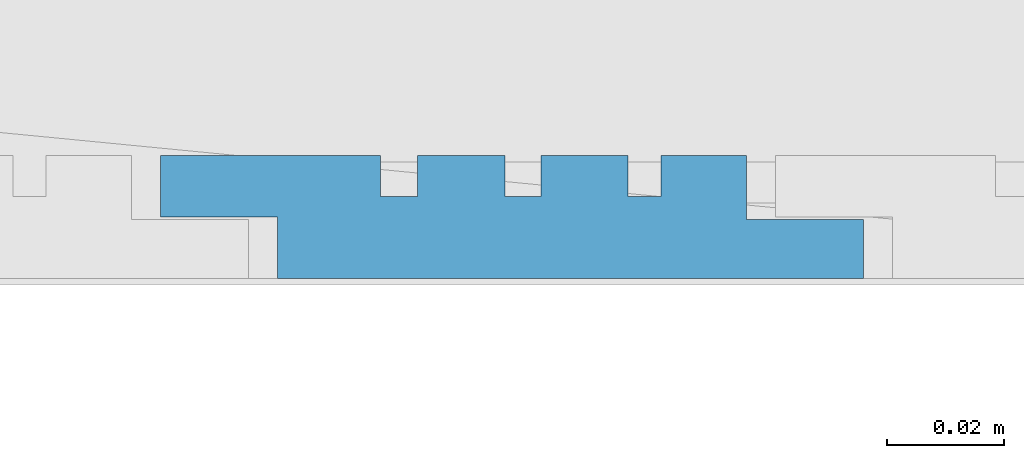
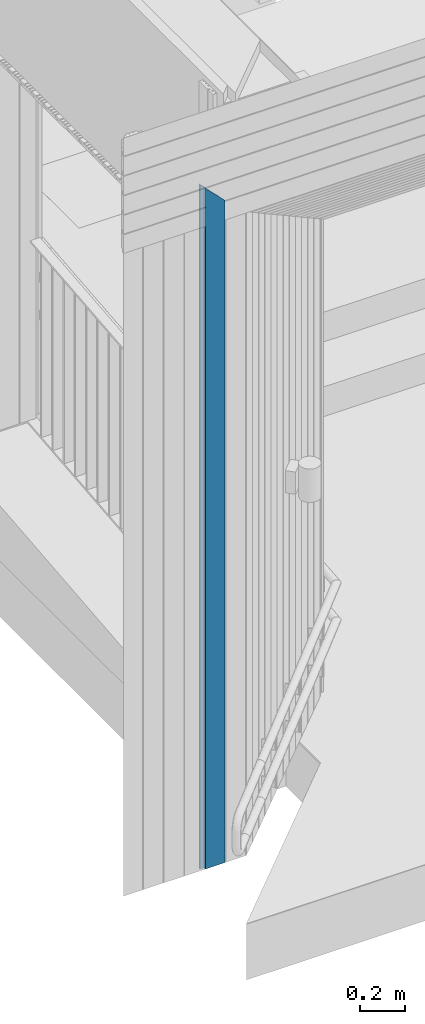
# One storey, part 96 of 418: 1 building element part, 1 element without a shape of its own.
"""IFC2X3 building model written with IfcOpenShell, lengths in millimetres."""

from ifc_helpers import new_model, entity, si_unit, converted_unit, derived_unit, money_unit, direction, frame, origin_with_axes, place, context, subcontext, project, spatial, polyline, outline, extrude, boolean, faceted_brep, material, type_object, element, aggregate, save


model = new_model("IFC2X3")

# Units and contexts
model_context = context("Model", 3, precision=0.01, world=origin_with_axes(), true_north=direction((0.0, 1.0)))
body_context = subcontext(model_context, "Body", "Model", "MODEL_VIEW")
ifc_project = project(units=[si_unit("LENGTHUNIT", "METRE", prefix="MILLI"), si_unit("AREAUNIT", "SQUARE_METRE"), si_unit("VOLUMEUNIT", "CUBIC_METRE"), converted_unit("PLANEANGLEUNIT", "DEGREE", entity("IfcPlaneAngleMeasure", 0.0174532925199), si_unit("PLANEANGLEUNIT", "RADIAN"), dimensions=[0, 0, 0, 0, 0, 0, 0]), si_unit("SOLIDANGLEUNIT", "STERADIAN"), money_unit("EUR"), converted_unit("TIMEUNIT", "Year", entity("IfcTimeMeasure", 31556926.0), si_unit("TIMEUNIT", "SECOND"), dimensions=[0, 0, 1, 0, 0, 0, 0]), si_unit("MASSUNIT", "GRAM", prefix="KILO"), si_unit("THERMODYNAMICTEMPERATUREUNIT", "DEGREE_CELSIUS"), si_unit("LUMINOUSINTENSITYUNIT", "LUMEN"), si_unit("ENERGYUNIT", "JOULE", prefix="MEGA"), derived_unit("THERMALCONDUCTANCEUNIT", [(si_unit("POWERUNIT", "WATT"), 1), (si_unit("LENGTHUNIT", "METRE"), -1), (si_unit("THERMODYNAMICTEMPERATUREUNIT", "KELVIN"), -1)]), derived_unit("SPECIFICHEATCAPACITYUNIT", [(si_unit("ENERGYUNIT", "JOULE"), 1), (si_unit("MASSUNIT", "GRAM", prefix="KILO"), -1), (si_unit("THERMODYNAMICTEMPERATUREUNIT", "KELVIN"), -1)]), derived_unit("MASSDENSITYUNIT", [(si_unit("MASSUNIT", "GRAM", prefix="KILO"), 1), (si_unit("VOLUMEUNIT", "CUBIC_METRE"), -1)])], contexts=[model_context])

# Site, building, storey
site_placement = place(None, origin_with_axes())
site = spatial("IfcSite", under=ifc_project, at=site_placement, Name="Paldiski mnt 245/1, Tallinn, Harjumaa", CompositionType="COMPLEX")
building_placement = place(site_placement, origin_with_axes())
building = spatial("IfcBuilding", under=site, at=building_placement, Name="RKAS Hoone üldnimetus (kasutust iseloomustav) -> IFC Project Manager -> SOLIBRI", CompositionType="ELEMENT")
storey_placement = place(building_placement, origin_with_axes())
storey = spatial("IfcBuildingStorey", under=building, at=storey_placement, Name="Esimene korrus", CompositionType="ELEMENT", Elevation=0.0)

# Proxy, building element part
building_element_proxy_type = type_object("IfcBuildingElementProxyType", Name="Laudis esiprofiil_01 21 x 622", PredefinedType="NOTDEFINED")
proxy_placement = place(storey_placement, frame((-45641.4622152, -18705.5141429, 0.0), z_axis=(0.0, 0.0, 1.0), x_axis=(0.0, 1.0, 0.0)))
proxy = element("IfcBuildingElementProxy", 1, at=proxy_placement, inside=storey, type_object=building_element_proxy_type, Name="Varikatus")
ifc_material = material(Name="Laudis 5072 Honka 45 horisontaalne raastas")
building_element_part_placement = place(proxy_placement, origin_with_axes())
building_element_part = element("IfcBuildingElementPart", 2, at=building_element_part_placement, material=ifc_material, Name="Laudis 5072 Honka 45 horisontaalne raastas", context=body_context, shape_type="CSG", body=[
    boolean("DIFFERENCE", boolean("DIFFERENCE", boolean("DIFFERENCE", boolean("DIFFERENCE", boolean("DIFFERENCE", boolean("DIFFERENCE", extrude(outline(polyline([(3.20348192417e-08, -415.971430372), (-10.5000010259, -415.971430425), (-10.5000005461, -395.971429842), (-20.9999998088, -395.971430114), (-21.0000010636, -433.497524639), (-14.0000005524, -433.497525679), (-14.0000003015, -439.860022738), (-20.99999981, -439.860022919), (-20.9999998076, -454.79914009), (-14.0000002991, -454.799139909), (-14.0000007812, -460.926080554), (-21.0000002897, -460.926080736), (-21.0000013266, -475.754573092), (-14.0000008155, -475.754574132), (-14.0000015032, -481.395242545), (-21.0000010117, -481.395242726), (-21.0000007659, -495.971429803), (-10.000001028, -495.971430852), (-10.0000002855, -515.971430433), (-7.63172636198e-07, -515.971430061), (3.20348192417e-08, -415.971430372)])), frame((0.0, 0.0, 0.0), z_axis=(0.0, 0.0, -1.0), x_axis=(-1.0, 0.0, 0.0)), (0.0, 0.0, -1.0), 4086.15997799), faceted_brep([(7.63172636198e-07, -515.971430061, 3569.02857112), (10.0000002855, -515.971430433, 3569.02857075), (10.0000002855, -515.971430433, 4086.15997799), (7.63172636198e-07, -515.971430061, 4086.15997799), (10.000001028, -495.971430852, 3589.02857033), (-3.20348192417e-08, -415.971430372, 3669.02857081), (10.5000010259, -415.971430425, 3669.02857076), (10.5000005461, -395.971429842, 3689.02857134), (20.9999998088, -395.971430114, 3689.02857107), (21.0000010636, -433.497524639, 3651.50247655), (14.0000005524, -433.497525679, 3651.50247551), (14.0000003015, -439.860022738, 3645.13997845), (20.99999981, -439.860022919, 3645.13997827), (20.9999998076, -454.79914009, 3630.20086109), (14.0000002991, -454.799139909, 3630.20086128), (14.0000007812, -460.926080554, 3624.07392063), (21.0000002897, -460.926080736, 3624.07392045), (21.0000013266, -475.754573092, 3609.24542809), (14.0000008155, -475.754574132, 3609.24542705), (14.0000015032, -481.395242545, 3603.60475864), (21.0000010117, -481.395242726, 3603.60475846), (21.0000007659, -495.971429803, 3589.02857138), (10.000001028, -495.971430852, 4086.15997799), (10.5000010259, -415.971430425, 4086.15997799), (-3.20348192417e-08, -415.971430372, 4086.15997799), (21.0000007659, -495.971429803, 4086.15997799), (21.0000010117, -481.395242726, 4086.15997799), (14.0000015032, -481.395242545, 4086.15997799), (14.0000008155, -475.754574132, 4086.15997799), (21.0000013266, -475.754573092, 4086.15997799), (21.0000002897, -460.926080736, 4086.15997799), (14.0000007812, -460.926080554, 4086.15997799), (14.0000002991, -454.799139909, 4086.15997799), (20.9999998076, -454.79914009, 4086.15997799), (20.99999981, -439.860022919, 4086.15997799), (14.0000003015, -439.860022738, 4086.15997799), (14.0000005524, -433.497525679, 4086.15997799), (21.0000010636, -433.497524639, 4086.15997799), (20.9999998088, -395.971430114, 4086.15997799), (10.5000005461, -395.971429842, 4086.15997799)], [[[0, 1, 2, 3]], [[4, 1, 0, 5, 6, 7, 8, 9, 10, 11, 12, 13, 14, 15, 16, 17, 18, 19, 20, 21]], [[1, 4, 22, 2]], [[23, 24, 3, 2, 22, 25, 26, 27, 28, 29, 30, 31, 32, 33, 34, 35, 36, 37, 38, 39]], [[5, 0, 3, 24]], [[6, 5, 24, 23]], [[7, 6, 23, 39]], [[8, 7, 39, 38]], [[9, 8, 38, 37]], [[10, 9, 37, 36]], [[11, 10, 36, 35]], [[12, 11, 35, 34]], [[13, 12, 34, 33]], [[14, 13, 33, 32]], [[15, 14, 32, 31]], [[16, 15, 31, 30]], [[17, 16, 30, 29]], [[18, 17, 29, 28]], [[19, 18, 28, 27]], [[20, 19, 27, 26]], [[21, 20, 26, 25]], [[4, 21, 25, 22]]])), faceted_brep([(7.63172636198e-07, -620.971430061, 3464.02857112), (10.0000002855, -620.971430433, 3464.02857075), (10.0000002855, -620.971430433, 4086.15997799), (7.63172636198e-07, -620.971430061, 4086.15997799), (10.000001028, -600.971430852, 3484.02857033), (-3.20348192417e-08, -520.971430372, 3564.02857081), (10.5000010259, -520.971430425, 3564.02857076), (10.5000005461, -500.971429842, 3584.02857134), (20.9999998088, -500.971430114, 3584.02857107), (21.0000010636, -538.497524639, 3546.50247655), (14.0000005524, -538.497525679, 3546.50247551), (14.0000003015, -544.860022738, 3540.13997845), (20.99999981, -544.860022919, 3540.13997827), (20.9999998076, -559.79914009, 3525.20086109), (14.0000002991, -559.799139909, 3525.20086128), (14.0000007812, -565.926080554, 3519.07392063), (21.0000002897, -565.926080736, 3519.07392045), (21.0000013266, -580.754573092, 3504.24542809), (14.0000008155, -580.754574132, 3504.24542705), (14.0000015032, -586.395242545, 3498.60475864), (21.0000010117, -586.395242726, 3498.60475846), (21.0000007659, -600.971429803, 3484.02857138), (10.000001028, -600.971430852, 4086.15997799), (10.5000010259, -520.971430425, 4086.15997799), (-3.20348192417e-08, -520.971430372, 4086.15997799), (21.0000007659, -600.971429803, 4086.15997799), (21.0000010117, -586.395242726, 4086.15997799), (14.0000015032, -586.395242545, 4086.15997799), (14.0000008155, -580.754574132, 4086.15997799), (21.0000013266, -580.754573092, 4086.15997799), (21.0000002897, -565.926080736, 4086.15997799), (14.0000007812, -565.926080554, 4086.15997799), (14.0000002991, -559.799139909, 4086.15997799), (20.9999998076, -559.79914009, 4086.15997799), (20.99999981, -544.860022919, 4086.15997799), (14.0000003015, -544.860022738, 4086.15997799), (14.0000005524, -538.497525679, 4086.15997799), (21.0000010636, -538.497524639, 4086.15997799), (20.9999998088, -500.971430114, 4086.15997799), (10.5000005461, -500.971429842, 4086.15997799)], [[[0, 1, 2, 3]], [[4, 1, 0, 5, 6, 7, 8, 9, 10, 11, 12, 13, 14, 15, 16, 17, 18, 19, 20, 21]], [[1, 4, 22, 2]], [[23, 24, 3, 2, 22, 25, 26, 27, 28, 29, 30, 31, 32, 33, 34, 35, 36, 37, 38, 39]], [[5, 0, 3, 24]], [[6, 5, 24, 23]], [[7, 6, 23, 39]], [[8, 7, 39, 38]], [[9, 8, 38, 37]], [[10, 9, 37, 36]], [[11, 10, 36, 35]], [[12, 11, 35, 34]], [[13, 12, 34, 33]], [[14, 13, 33, 32]], [[15, 14, 32, 31]], [[16, 15, 31, 30]], [[17, 16, 30, 29]], [[18, 17, 29, 28]], [[19, 18, 28, 27]], [[20, 19, 27, 26]], [[21, 20, 26, 25]], [[4, 21, 25, 22]]])), faceted_brep([(7.63172636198e-07, -305.971430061, 3779.02857112), (10.0000002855, -305.971430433, 3779.02857075), (10.0000002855, -305.971430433, 4086.15997799), (7.63172636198e-07, -305.971430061, 4086.15997799), (10.000001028, -285.971430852, 3799.02857033), (-3.20348192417e-08, -205.971430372, 3879.02857081), (10.5000010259, -205.971430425, 3879.02857076), (10.5000005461, -185.971429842, 3899.02857134), (20.9999998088, -185.971430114, 3899.02857107), (21.0000010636, -223.497524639, 3861.50247655), (14.0000005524, -223.497525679, 3861.50247551), (14.0000003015, -229.860022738, 3855.13997845), (20.99999981, -229.860022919, 3855.13997827), (20.9999998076, -244.79914009, 3840.20086109), (14.0000002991, -244.799139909, 3840.20086128), (14.0000007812, -250.926080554, 3834.07392063), (21.0000002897, -250.926080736, 3834.07392045), (21.0000013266, -265.754573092, 3819.24542809), (14.0000008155, -265.754574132, 3819.24542705), (14.0000015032, -271.395242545, 3813.60475864), (21.0000010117, -271.395242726, 3813.60475846), (21.0000007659, -285.971429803, 3799.02857138), (10.000001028, -285.971430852, 4086.15997799), (10.5000010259, -205.971430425, 4086.15997799), (-3.20348192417e-08, -205.971430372, 4086.15997799), (21.0000007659, -285.971429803, 4086.15997799), (21.0000010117, -271.395242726, 4086.15997799), (14.0000015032, -271.395242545, 4086.15997799), (14.0000008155, -265.754574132, 4086.15997799), (21.0000013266, -265.754573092, 4086.15997799), (21.0000002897, -250.926080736, 4086.15997799), (14.0000007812, -250.926080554, 4086.15997799), (14.0000002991, -244.799139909, 4086.15997799), (20.9999998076, -244.79914009, 4086.15997799), (20.99999981, -229.860022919, 4086.15997799), (14.0000003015, -229.860022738, 4086.15997799), (14.0000005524, -223.497525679, 4086.15997799), (21.0000010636, -223.497524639, 4086.15997799), (20.9999998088, -185.971430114, 4086.15997799), (10.5000005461, -185.971429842, 4086.15997799)], [[[0, 1, 2, 3]], [[4, 1, 0, 5, 6, 7, 8, 9, 10, 11, 12, 13, 14, 15, 16, 17, 18, 19, 20, 21]], [[1, 4, 22, 2]], [[23, 24, 3, 2, 22, 25, 26, 27, 28, 29, 30, 31, 32, 33, 34, 35, 36, 37, 38, 39]], [[5, 0, 3, 24]], [[6, 5, 24, 23]], [[7, 6, 23, 39]], [[8, 7, 39, 38]], [[9, 8, 38, 37]], [[10, 9, 37, 36]], [[11, 10, 36, 35]], [[12, 11, 35, 34]], [[13, 12, 34, 33]], [[14, 13, 33, 32]], [[15, 14, 32, 31]], [[16, 15, 31, 30]], [[17, 16, 30, 29]], [[18, 17, 29, 28]], [[19, 18, 28, 27]], [[20, 19, 27, 26]], [[21, 20, 26, 25]], [[4, 21, 25, 22]]])), faceted_brep([(7.63172636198e-07, -410.971430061, 3674.02857112), (10.0000002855, -410.971430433, 3674.02857075), (10.0000002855, -410.971430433, 4086.15997799), (7.63172636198e-07, -410.971430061, 4086.15997799), (10.000001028, -390.971430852, 3694.02857033), (-3.20348192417e-08, -310.971430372, 3774.02857081), (10.5000010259, -310.971430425, 3774.02857076), (10.5000005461, -290.971429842, 3794.02857134), (20.9999998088, -290.971430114, 3794.02857107), (21.0000010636, -328.497524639, 3756.50247655), (14.0000005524, -328.497525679, 3756.50247551), (14.0000003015, -334.860022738, 3750.13997845), (20.99999981, -334.860022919, 3750.13997827), (20.9999998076, -349.79914009, 3735.20086109), (14.0000002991, -349.799139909, 3735.20086128), (14.0000007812, -355.926080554, 3729.07392063), (21.0000002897, -355.926080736, 3729.07392045), (21.0000013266, -370.754573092, 3714.24542809), (14.0000008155, -370.754574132, 3714.24542705), (14.0000015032, -376.395242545, 3708.60475864), (21.0000010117, -376.395242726, 3708.60475846), (21.0000007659, -390.971429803, 3694.02857138), (10.000001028, -390.971430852, 4086.15997799), (10.5000010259, -310.971430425, 4086.15997799), (-3.20348192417e-08, -310.971430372, 4086.15997799), (21.0000007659, -390.971429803, 4086.15997799), (21.0000010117, -376.395242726, 4086.15997799), (14.0000015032, -376.395242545, 4086.15997799), (14.0000008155, -370.754574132, 4086.15997799), (21.0000013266, -370.754573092, 4086.15997799), (21.0000002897, -355.926080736, 4086.15997799), (14.0000007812, -355.926080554, 4086.15997799), (14.0000002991, -349.799139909, 4086.15997799), (20.9999998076, -349.79914009, 4086.15997799), (20.99999981, -334.860022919, 4086.15997799), (14.0000003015, -334.860022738, 4086.15997799), (14.0000005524, -328.497525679, 4086.15997799), (21.0000010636, -328.497524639, 4086.15997799), (20.9999998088, -290.971430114, 4086.15997799), (10.5000005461, -290.971429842, 4086.15997799)], [[[0, 1, 2, 3]], [[4, 1, 0, 5, 6, 7, 8, 9, 10, 11, 12, 13, 14, 15, 16, 17, 18, 19, 20, 21]], [[1, 4, 22, 2]], [[23, 24, 3, 2, 22, 25, 26, 27, 28, 29, 30, 31, 32, 33, 34, 35, 36, 37, 38, 39]], [[5, 0, 3, 24]], [[6, 5, 24, 23]], [[7, 6, 23, 39]], [[8, 7, 39, 38]], [[9, 8, 38, 37]], [[10, 9, 37, 36]], [[11, 10, 36, 35]], [[12, 11, 35, 34]], [[13, 12, 34, 33]], [[14, 13, 33, 32]], [[15, 14, 32, 31]], [[16, 15, 31, 30]], [[17, 16, 30, 29]], [[18, 17, 29, 28]], [[19, 18, 28, 27]], [[20, 19, 27, 26]], [[21, 20, 26, 25]], [[4, 21, 25, 22]]])), faceted_brep([(1.4387921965e-06, -95.9714304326, 3989.02857075), (10.0000000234, -95.9714304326, 3989.02857075), (10.0000000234, -95.9714304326, 4086.15997799), (1.4387921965e-06, -95.9714304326, 4086.15997799), (10.0000014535, -75.9714304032, 4009.02857078), (-8.28137558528e-09, 1.13997680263, 4086.13997799), (14.0000008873, -12.860024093, 4072.13997709), (14.0000008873, -19.8600231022, 4065.13997808), (20.9999998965, -19.8600231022, 4065.13997808), (20.9999998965, -34.7991407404, 4050.20086044), (14.0000008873, -34.7991393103, 4050.20086187), (14.0000008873, -40.9260801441, 4044.07392104), (20.9999998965, -40.9260801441, 4044.07392104), (21.0000013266, -55.7545733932, 4029.24542779), (14.0000008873, -55.7545748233, 4029.24542636), (14.0000008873, -61.3952431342, 4023.60475805), (21.0000013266, -61.3952431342, 4023.60475805), (21.0000013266, -75.9714304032, 4009.02857078), (10.0000014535, -75.9714304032, 4086.15997799), (14.0000008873, -55.7545748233, 4086.15997799), (21.0000013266, -55.7545733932, 4086.15997799), (20.9999998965, -40.9260801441, 4086.15997799), (14.0000008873, -40.9260801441, 4086.15997799), (14.0000008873, -34.7991393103, 4086.15997799), (20.9999998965, -34.7991407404, 4086.15997799), (20.9999998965, -19.8600231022, 4086.15997799), (14.0000008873, -19.8600231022, 4086.15997799), (14.0000008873, -12.860024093, 4086.15997799), (-8.28137558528e-09, 1.13997680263, 4086.15997799), (21.0000013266, -75.9714304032, 4086.15997799), (21.0000013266, -61.3952431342, 4086.15997799), (14.0000008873, -61.3952431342, 4086.15997799)], [[[0, 1, 2, 3]], [[4, 1, 0, 5, 6, 7, 8, 9, 10, 11, 12, 13, 14, 15, 16, 17]], [[1, 4, 18, 2]], [[19, 20, 21, 22, 23, 24, 25, 26, 27, 28, 3, 2, 18, 29, 30, 31]], [[5, 0, 3, 28]], [[6, 5, 28, 27]], [[7, 6, 27, 26]], [[8, 7, 26, 25]], [[9, 8, 25, 24]], [[10, 9, 24, 23]], [[11, 10, 23, 22]], [[12, 11, 22, 21]], [[13, 12, 21, 20]], [[14, 13, 20, 19]], [[15, 14, 19, 31]], [[16, 15, 31, 30]], [[17, 16, 30, 29]], [[4, 17, 29, 18]]])), faceted_brep([(7.63172636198e-07, -200.971430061, 3884.02857112), (10.0000002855, -200.971430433, 3884.02857075), (10.0000002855, -200.971430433, 4086.15997799), (7.63172636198e-07, -200.971430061, 4086.15997799), (10.000001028, -180.971430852, 3904.02857033), (-3.20348192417e-08, -100.971430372, 3984.02857081), (10.5000010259, -100.971430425, 3984.02857076), (10.5000005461, -80.9714298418, 4004.02857134), (20.9999998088, -80.9714301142, 4004.02857107), (21.0000010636, -118.497524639, 3966.50247655), (14.0000005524, -118.497525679, 3966.50247551), (14.0000003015, -124.860022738, 3960.13997845), (20.99999981, -124.860022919, 3960.13997827), (20.9999998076, -139.79914009, 3945.20086109), (14.0000002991, -139.799139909, 3945.20086128), (14.0000007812, -145.926080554, 3939.07392063), (21.0000002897, -145.926080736, 3939.07392045), (21.0000013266, -160.754573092, 3924.24542809), (14.0000008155, -160.754574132, 3924.24542705), (14.0000015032, -166.395242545, 3918.60475864), (21.0000010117, -166.395242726, 3918.60475846), (21.0000007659, -180.971429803, 3904.02857138), (10.000001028, -180.971430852, 4086.15997799), (10.5000010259, -100.971430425, 4086.15997799), (-3.20348192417e-08, -100.971430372, 4086.15997799), (21.0000007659, -180.971429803, 4086.15997799), (21.0000010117, -166.395242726, 4086.15997799), (14.0000015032, -166.395242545, 4086.15997799), (14.0000008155, -160.754574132, 4086.15997799), (21.0000013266, -160.754573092, 4086.15997799), (21.0000002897, -145.926080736, 4086.15997799), (14.0000007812, -145.926080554, 4086.15997799), (14.0000002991, -139.799139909, 4086.15997799), (20.9999998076, -139.79914009, 4086.15997799), (20.99999981, -124.860022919, 4086.15997799), (14.0000003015, -124.860022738, 4086.15997799), (14.0000005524, -118.497525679, 4086.15997799), (21.0000010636, -118.497524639, 4086.15997799), (20.9999998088, -80.9714301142, 4086.15997799), (10.5000005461, -80.9714298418, 4086.15997799)], [[[0, 1, 2, 3]], [[4, 1, 0, 5, 6, 7, 8, 9, 10, 11, 12, 13, 14, 15, 16, 17, 18, 19, 20, 21]], [[1, 4, 22, 2]], [[23, 24, 3, 2, 22, 25, 26, 27, 28, 29, 30, 31, 32, 33, 34, 35, 36, 37, 38, 39]], [[5, 0, 3, 24]], [[6, 5, 24, 23]], [[7, 6, 23, 39]], [[8, 7, 39, 38]], [[9, 8, 38, 37]], [[10, 9, 37, 36]], [[11, 10, 36, 35]], [[12, 11, 35, 34]], [[13, 12, 34, 33]], [[14, 13, 33, 32]], [[15, 14, 32, 31]], [[16, 15, 31, 30]], [[17, 16, 30, 29]], [[18, 17, 29, 28]], [[19, 18, 28, 27]], [[20, 19, 27, 26]], [[21, 20, 26, 25]], [[4, 21, 25, 22]]])),
])
aggregate(proxy, [building_element_part])

save(model, "model.ifc")
